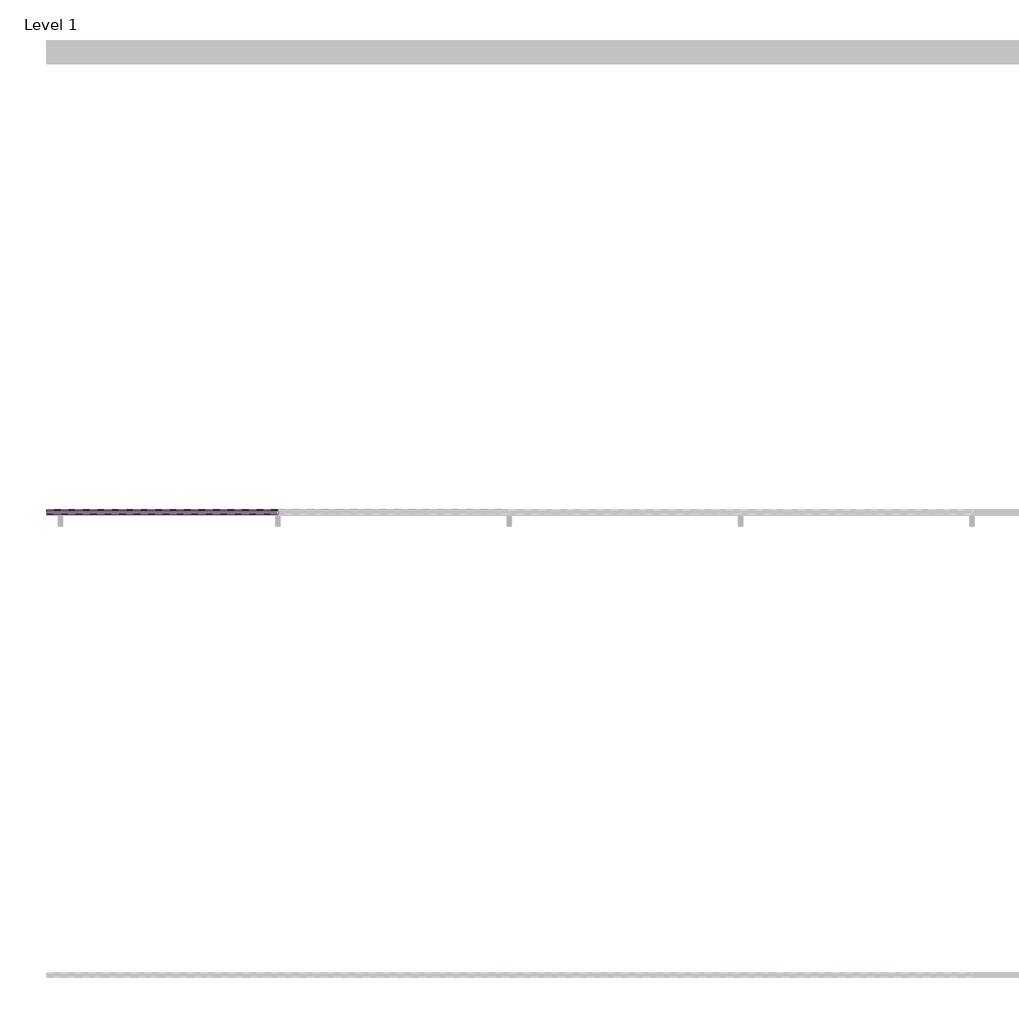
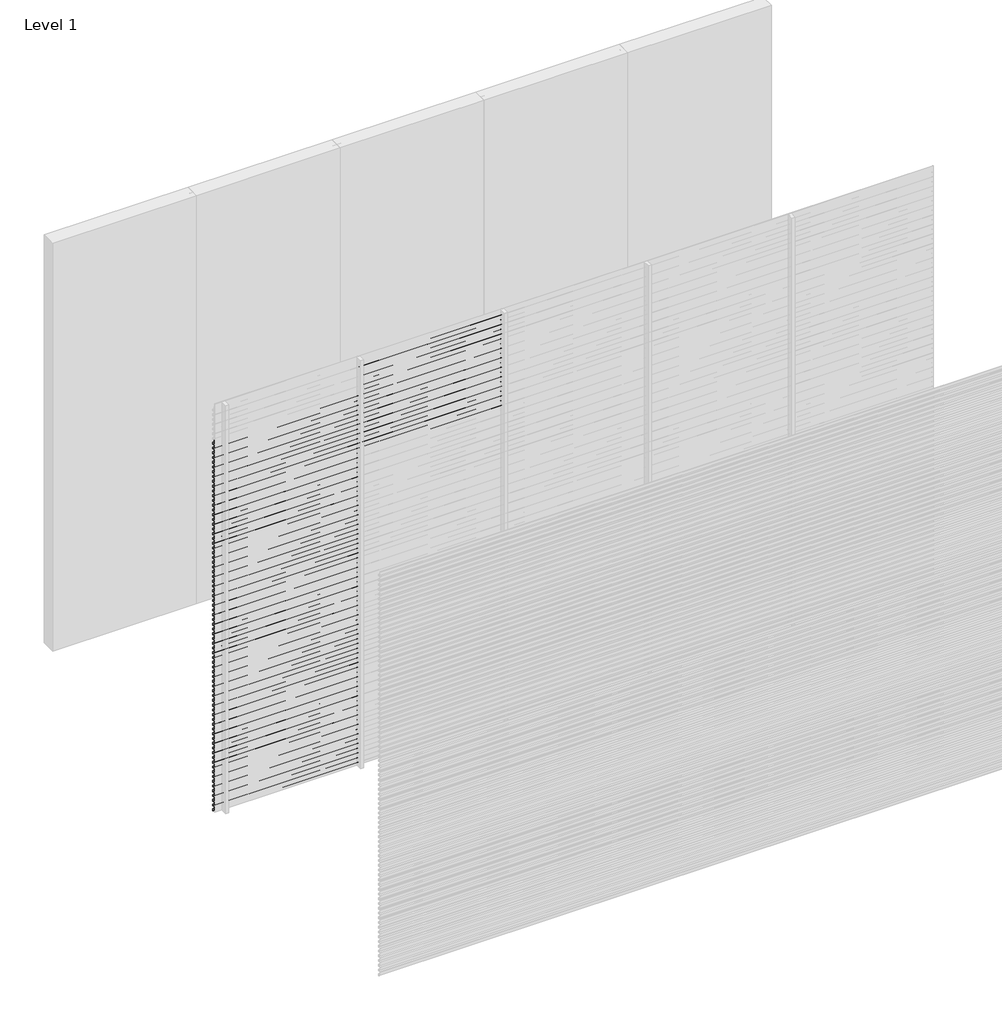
# One storey, part 15 of 25: 98 proxies.
"""IFC4 building model written with IfcOpenShell, lengths in millimetres."""

from ifc_helpers import new_model, si_unit, frame, origin, place, context, project, spatial, polyline, outline, extrude, element, save

model = new_model("IFC4")

# Units and contexts
model_context = context("Model", 3, world=origin())
ifc_project = project(units=[si_unit("LENGTHUNIT", "METRE", prefix="MILLI")], contexts=[model_context])

# Site, building, storey
site = spatial("IfcSite", under=ifc_project)
building = spatial("IfcBuilding", under=site)
storey = spatial("IfcBuildingStorey", under=building, Name="Level 1", Elevation=0.0)

# Proxies
placement = place(None, origin())
element("IfcBuildingElementProxy", 1, Name="Wall Sweeps", at=placement, inside=storey, context=model_context, shape_type="SweptSolid", body=[
    extrude(outline(polyline([(-5995.0, 2730.0), (-5995.0, 2718.942893), (-5976.0, 2703.0), (-5976.0, 2690.0), (-5997.0, 2707.6210923), (-5997.0, 2730.0), (-5995.0, 2730.0)])), frame((0.0, 0.0, 0.0), z_axis=(1.0, 0.0, 0.0), x_axis=(0.0, 1.0, 0.0)), (0.0, 0.0, 1.0), 1000.0),
])
element("IfcBuildingElementProxy", 2, Name="Wall Sweeps", at=placement, inside=storey, context=model_context, shape_type="SweptSolid", body=[
    extrude(outline(polyline([(-5995.0, 2695.0), (-5995.0, 2683.942893), (-5976.0, 2668.0), (-5976.0, 2655.0), (-5997.0, 2672.6210923), (-5997.0, 2695.0), (-5995.0, 2695.0)])), frame((0.0, 0.0, 0.0), z_axis=(1.0, 0.0, 0.0), x_axis=(0.0, 1.0, 0.0)), (0.0, 0.0, 1.0), 1000.0),
])
element("IfcBuildingElementProxy", 3, Name="Wall Sweeps", at=placement, inside=storey, context=model_context, shape_type="SweptSolid", body=[
    extrude(outline(polyline([(-5995.0, 2660.0), (-5995.0, 2648.942893), (-5976.0, 2633.0), (-5976.0, 2620.0), (-5997.0, 2637.6210923), (-5997.0, 2660.0), (-5995.0, 2660.0)])), frame((0.0, 0.0, 0.0), z_axis=(1.0, 0.0, 0.0), x_axis=(0.0, 1.0, 0.0)), (0.0, 0.0, 1.0), 1000.0),
])
element("IfcBuildingElementProxy", 4, Name="Wall Sweeps", at=placement, inside=storey, context=model_context, shape_type="SweptSolid", body=[
    extrude(outline(polyline([(-5995.0, 2625.0), (-5995.0, 2613.942893), (-5976.0, 2598.0), (-5976.0, 2585.0), (-5997.0, 2602.6210923), (-5997.0, 2625.0), (-5995.0, 2625.0)])), frame((0.0, 0.0, 0.0), z_axis=(1.0, 0.0, 0.0), x_axis=(0.0, 1.0, 0.0)), (0.0, 0.0, 1.0), 1000.0),
])
element("IfcBuildingElementProxy", 5, Name="Wall Sweeps", at=placement, inside=storey, context=model_context, shape_type="SweptSolid", body=[
    extrude(outline(polyline([(-5995.0, 2590.0), (-5995.0, 2578.942893), (-5976.0, 2563.0), (-5976.0, 2550.0), (-5997.0, 2567.6210923), (-5997.0, 2590.0), (-5995.0, 2590.0)])), frame((0.0, 0.0, 0.0), z_axis=(1.0, 0.0, 0.0), x_axis=(0.0, 1.0, 0.0)), (0.0, 0.0, 1.0), 1000.0),
])
element("IfcBuildingElementProxy", 6, Name="Wall Sweeps", at=placement, inside=storey, context=model_context, shape_type="SweptSolid", body=[
    extrude(outline(polyline([(-5995.0, 2555.0), (-5995.0, 2543.942893), (-5976.0, 2528.0), (-5976.0, 2515.0), (-5997.0, 2532.6210923), (-5997.0, 2555.0), (-5995.0, 2555.0)])), frame((0.0, 0.0, 0.0), z_axis=(1.0, 0.0, 0.0), x_axis=(0.0, 1.0, 0.0)), (0.0, 0.0, 1.0), 1000.0),
])
element("IfcBuildingElementProxy", 7, Name="Wall Sweeps", at=placement, inside=storey, context=model_context, shape_type="SweptSolid", body=[
    extrude(outline(polyline([(-5995.0, 2520.0), (-5995.0, 2508.942893), (-5976.0, 2493.0), (-5976.0, 2480.0), (-5997.0, 2497.6210923), (-5997.0, 2520.0), (-5995.0, 2520.0)])), frame((0.0, 0.0, 0.0), z_axis=(1.0, 0.0, 0.0), x_axis=(0.0, 1.0, 0.0)), (0.0, 0.0, 1.0), 1000.0),
])
element("IfcBuildingElementProxy", 8, Name="Wall Sweeps", at=placement, inside=storey, context=model_context, shape_type="SweptSolid", body=[
    extrude(outline(polyline([(-5995.0, 2485.0), (-5995.0, 2473.942893), (-5976.0, 2458.0), (-5976.0, 2445.0), (-5997.0, 2462.6210923), (-5997.0, 2485.0), (-5995.0, 2485.0)])), frame((0.0, 0.0, 0.0), z_axis=(1.0, 0.0, 0.0), x_axis=(0.0, 1.0, 0.0)), (0.0, 0.0, 1.0), 1000.0),
])
element("IfcBuildingElementProxy", 9, Name="Wall Sweeps", at=placement, inside=storey, context=model_context, shape_type="SweptSolid", body=[
    extrude(outline(polyline([(-5995.0, 2450.0), (-5995.0, 2438.942893), (-5976.0, 2423.0), (-5976.0, 2410.0), (-5997.0, 2427.6210923), (-5997.0, 2450.0), (-5995.0, 2450.0)])), frame((0.0, 0.0, 0.0), z_axis=(1.0, 0.0, 0.0), x_axis=(0.0, 1.0, 0.0)), (0.0, 0.0, 1.0), 1000.0),
])
element("IfcBuildingElementProxy", 10, Name="Wall Sweeps", at=placement, inside=storey, context=model_context, shape_type="SweptSolid", body=[
    extrude(outline(polyline([(-5995.0, 2415.0), (-5995.0, 2403.942893), (-5976.0, 2388.0), (-5976.0, 2375.0), (-5997.0, 2392.6210923), (-5997.0, 2415.0), (-5995.0, 2415.0)])), frame((0.0, 0.0, 0.0), z_axis=(1.0, 0.0, 0.0), x_axis=(0.0, 1.0, 0.0)), (0.0, 0.0, 1.0), 1000.0),
])
element("IfcBuildingElementProxy", 11, Name="Wall Sweeps", at=placement, inside=storey, context=model_context, shape_type="SweptSolid", body=[
    extrude(outline(polyline([(-5995.0, 2380.0), (-5995.0, 2368.942893), (-5976.0, 2353.0), (-5976.0, 2340.0), (-5997.0, 2357.6210923), (-5997.0, 2380.0), (-5995.0, 2380.0)])), frame((0.0, 0.0, 0.0), z_axis=(1.0, 0.0, 0.0), x_axis=(0.0, 1.0, 0.0)), (0.0, 0.0, 1.0), 1000.0),
])
element("IfcBuildingElementProxy", 12, Name="Wall Sweeps", at=placement, inside=storey, context=model_context, shape_type="SweptSolid", body=[
    extrude(outline(polyline([(-5995.0, 2345.0), (-5995.0, 2333.942893), (-5976.0, 2318.0), (-5976.0, 2305.0), (-5997.0, 2322.6210923), (-5997.0, 2345.0), (-5995.0, 2345.0)])), frame((0.0, 0.0, 0.0), z_axis=(1.0, 0.0, 0.0), x_axis=(0.0, 1.0, 0.0)), (0.0, 0.0, 1.0), 1000.0),
])
element("IfcBuildingElementProxy", 13, Name="Wall Sweeps", at=placement, inside=storey, context=model_context, shape_type="SweptSolid", body=[
    extrude(outline(polyline([(-5995.0, 2310.0), (-5995.0, 2298.942893), (-5976.0, 2283.0), (-5976.0, 2270.0), (-5997.0, 2287.6210923), (-5997.0, 2310.0), (-5995.0, 2310.0)])), frame((0.0, 0.0, 0.0), z_axis=(1.0, 0.0, 0.0), x_axis=(0.0, 1.0, 0.0)), (0.0, 0.0, 1.0), 1000.0),
])
element("IfcBuildingElementProxy", 14, Name="Wall Sweeps", at=placement, inside=storey, context=model_context, shape_type="SweptSolid", body=[
    extrude(outline(polyline([(-5995.0, 2275.0), (-5995.0, 2263.942893), (-5976.0, 2248.0), (-5976.0, 2235.0), (-5997.0, 2252.6210923), (-5997.0, 2275.0), (-5995.0, 2275.0)])), frame((0.0, 0.0, 0.0), z_axis=(1.0, 0.0, 0.0), x_axis=(0.0, 1.0, 0.0)), (0.0, 0.0, 1.0), 1000.0),
])
element("IfcBuildingElementProxy", 15, Name="Wall Sweeps", at=placement, inside=storey, context=model_context, shape_type="SweptSolid", body=[
    extrude(outline(polyline([(-5995.0, 2240.0), (-5995.0, 2228.942893), (-5976.0, 2213.0), (-5976.0, 2200.0), (-5997.0, 2217.6210923), (-5997.0, 2240.0), (-5995.0, 2240.0)])), frame((0.0, 0.0, 0.0), z_axis=(1.0, 0.0, 0.0), x_axis=(0.0, 1.0, 0.0)), (0.0, 0.0, 1.0), 1000.0),
])
element("IfcBuildingElementProxy", 16, Name="Wall Sweeps", at=placement, inside=storey, context=model_context, shape_type="SweptSolid", body=[
    extrude(outline(polyline([(-5995.0, 2205.0), (-5995.0, 2193.942893), (-5976.0, 2178.0), (-5976.0, 2165.0), (-5997.0, 2182.6210923), (-5997.0, 2205.0), (-5995.0, 2205.0)])), frame((0.0, 0.0, 0.0), z_axis=(1.0, 0.0, 0.0), x_axis=(0.0, 1.0, 0.0)), (0.0, 0.0, 1.0), 1000.0),
])
element("IfcBuildingElementProxy", 17, Name="Wall Sweeps", at=placement, inside=storey, context=model_context, shape_type="SweptSolid", body=[
    extrude(outline(polyline([(-5995.0, 2170.0), (-5995.0, 2158.942893), (-5976.0, 2143.0), (-5976.0, 2130.0), (-5997.0, 2147.6210923), (-5997.0, 2170.0), (-5995.0, 2170.0)])), frame((0.0, 0.0, 0.0), z_axis=(1.0, 0.0, 0.0), x_axis=(0.0, 1.0, 0.0)), (0.0, 0.0, 1.0), 1000.0),
])
element("IfcBuildingElementProxy", 18, Name="Wall Sweeps", at=placement, inside=storey, context=model_context, shape_type="SweptSolid", body=[
    extrude(outline(polyline([(-5995.0, 2135.0), (-5995.0, 2123.942893), (-5976.0, 2108.0), (-5976.0, 2095.0), (-5997.0, 2112.6210923), (-5997.0, 2135.0), (-5995.0, 2135.0)])), frame((0.0, 0.0, 0.0), z_axis=(1.0, 0.0, 0.0), x_axis=(0.0, 1.0, 0.0)), (0.0, 0.0, 1.0), 1000.0),
])
element("IfcBuildingElementProxy", 19, Name="Wall Sweeps", at=placement, inside=storey, context=model_context, shape_type="SweptSolid", body=[
    extrude(outline(polyline([(-5995.0, 2100.0), (-5995.0, 2088.942893), (-5976.0, 2073.0), (-5976.0, 2060.0), (-5997.0, 2077.6210923), (-5997.0, 2100.0), (-5995.0, 2100.0)])), frame((0.0, 0.0, 0.0), z_axis=(1.0, 0.0, 0.0), x_axis=(0.0, 1.0, 0.0)), (0.0, 0.0, 1.0), 1000.0),
])
element("IfcBuildingElementProxy", 20, Name="Wall Sweeps", at=placement, inside=storey, context=model_context, shape_type="SweptSolid", body=[
    extrude(outline(polyline([(-5995.0, 2065.0), (-5995.0, 2053.942893), (-5976.0, 2038.0), (-5976.0, 2025.0), (-5997.0, 2042.6210923), (-5997.0, 2065.0), (-5995.0, 2065.0)])), frame((0.0, 0.0, 0.0), z_axis=(1.0, 0.0, 0.0), x_axis=(0.0, 1.0, 0.0)), (0.0, 0.0, 1.0), 1000.0),
])
element("IfcBuildingElementProxy", 21, Name="Wall Sweeps", at=placement, inside=storey, context=model_context, shape_type="SweptSolid", body=[
    extrude(outline(polyline([(-5995.0, 2030.0), (-5995.0, 2018.942893), (-5976.0, 2003.0), (-5976.0, 1990.0), (-5997.0, 2007.6210923), (-5997.0, 2030.0), (-5995.0, 2030.0)])), frame((0.0, 0.0, 0.0), z_axis=(1.0, 0.0, 0.0), x_axis=(0.0, 1.0, 0.0)), (0.0, 0.0, 1.0), 1000.0),
])
element("IfcBuildingElementProxy", 22, Name="Wall Sweeps", at=placement, inside=storey, context=model_context, shape_type="SweptSolid", body=[
    extrude(outline(polyline([(-5995.0, 1995.0), (-5995.0, 1983.942893), (-5976.0, 1968.0), (-5976.0, 1955.0), (-5997.0, 1972.6210923), (-5997.0, 1995.0), (-5995.0, 1995.0)])), frame((0.0, 0.0, 0.0), z_axis=(1.0, 0.0, 0.0), x_axis=(0.0, 1.0, 0.0)), (0.0, 0.0, 1.0), 1000.0),
])
element("IfcBuildingElementProxy", 23, Name="Wall Sweeps", at=placement, inside=storey, context=model_context, shape_type="SweptSolid", body=[
    extrude(outline(polyline([(-5995.0, 1960.0), (-5995.0, 1948.942893), (-5976.0, 1933.0), (-5976.0, 1920.0), (-5997.0, 1937.6210923), (-5997.0, 1960.0), (-5995.0, 1960.0)])), frame((0.0, 0.0, 0.0), z_axis=(1.0, 0.0, 0.0), x_axis=(0.0, 1.0, 0.0)), (0.0, 0.0, 1.0), 1000.0),
])
element("IfcBuildingElementProxy", 24, Name="Wall Sweeps", at=placement, inside=storey, context=model_context, shape_type="SweptSolid", body=[
    extrude(outline(polyline([(-5995.0, 1925.0), (-5995.0, 1913.942893), (-5976.0, 1898.0), (-5976.0, 1885.0), (-5997.0, 1902.6210923), (-5997.0, 1925.0), (-5995.0, 1925.0)])), frame((0.0, 0.0, 0.0), z_axis=(1.0, 0.0, 0.0), x_axis=(0.0, 1.0, 0.0)), (0.0, 0.0, 1.0), 1000.0),
])
element("IfcBuildingElementProxy", 25, Name="Wall Sweeps", at=placement, inside=storey, context=model_context, shape_type="SweptSolid", body=[
    extrude(outline(polyline([(-5995.0, 1890.0), (-5995.0, 1878.942893), (-5976.0, 1863.0), (-5976.0, 1850.0), (-5997.0, 1867.6210923), (-5997.0, 1890.0), (-5995.0, 1890.0)])), frame((0.0, 0.0, 0.0), z_axis=(1.0, 0.0, 0.0), x_axis=(0.0, 1.0, 0.0)), (0.0, 0.0, 1.0), 1000.0),
])
element("IfcBuildingElementProxy", 26, Name="Wall Sweeps", at=placement, inside=storey, context=model_context, shape_type="SweptSolid", body=[
    extrude(outline(polyline([(-5995.0, 1855.0), (-5995.0, 1843.942893), (-5976.0, 1828.0), (-5976.0, 1815.0), (-5997.0, 1832.6210923), (-5997.0, 1855.0), (-5995.0, 1855.0)])), frame((0.0, 0.0, 0.0), z_axis=(1.0, 0.0, 0.0), x_axis=(0.0, 1.0, 0.0)), (0.0, 0.0, 1.0), 1000.0),
])
element("IfcBuildingElementProxy", 27, Name="Wall Sweeps", at=placement, inside=storey, context=model_context, shape_type="SweptSolid", body=[
    extrude(outline(polyline([(-5995.0, 1820.0), (-5995.0, 1808.942893), (-5976.0, 1793.0), (-5976.0, 1780.0), (-5997.0, 1797.6210923), (-5997.0, 1820.0), (-5995.0, 1820.0)])), frame((0.0, 0.0, 0.0), z_axis=(1.0, 0.0, 0.0), x_axis=(0.0, 1.0, 0.0)), (0.0, 0.0, 1.0), 1000.0),
])
element("IfcBuildingElementProxy", 28, Name="Wall Sweeps", at=placement, inside=storey, context=model_context, shape_type="SweptSolid", body=[
    extrude(outline(polyline([(-5995.0, 1785.0), (-5995.0, 1773.942893), (-5976.0, 1758.0), (-5976.0, 1745.0), (-5997.0, 1762.6210923), (-5997.0, 1785.0), (-5995.0, 1785.0)])), frame((0.0, 0.0, 0.0), z_axis=(1.0, 0.0, 0.0), x_axis=(0.0, 1.0, 0.0)), (0.0, 0.0, 1.0), 1000.0),
])
element("IfcBuildingElementProxy", 29, Name="Wall Sweeps", at=placement, inside=storey, context=model_context, shape_type="SweptSolid", body=[
    extrude(outline(polyline([(-5995.0, 1750.0), (-5995.0, 1738.942893), (-5976.0, 1723.0), (-5976.0, 1710.0), (-5997.0, 1727.6210923), (-5997.0, 1750.0), (-5995.0, 1750.0)])), frame((0.0, 0.0, 0.0), z_axis=(1.0, 0.0, 0.0), x_axis=(0.0, 1.0, 0.0)), (0.0, 0.0, 1.0), 1000.0),
])
element("IfcBuildingElementProxy", 30, Name="Wall Sweeps", at=placement, inside=storey, context=model_context, shape_type="SweptSolid", body=[
    extrude(outline(polyline([(-5995.0, 1715.0), (-5995.0, 1703.942893), (-5976.0, 1688.0), (-5976.0, 1675.0), (-5997.0, 1692.6210923), (-5997.0, 1715.0), (-5995.0, 1715.0)])), frame((0.0, 0.0, 0.0), z_axis=(1.0, 0.0, 0.0), x_axis=(0.0, 1.0, 0.0)), (0.0, 0.0, 1.0), 1000.0),
])
element("IfcBuildingElementProxy", 31, Name="Wall Sweeps", at=placement, inside=storey, context=model_context, shape_type="SweptSolid", body=[
    extrude(outline(polyline([(-5995.0, 1680.0), (-5995.0, 1668.942893), (-5976.0, 1653.0), (-5976.0, 1640.0), (-5997.0, 1657.6210923), (-5997.0, 1680.0), (-5995.0, 1680.0)])), frame((0.0, 0.0, 0.0), z_axis=(1.0, 0.0, 0.0), x_axis=(0.0, 1.0, 0.0)), (0.0, 0.0, 1.0), 1000.0),
])
element("IfcBuildingElementProxy", 32, Name="Wall Sweeps", at=placement, inside=storey, context=model_context, shape_type="SweptSolid", body=[
    extrude(outline(polyline([(-5995.0, 1645.0), (-5995.0, 1633.942893), (-5976.0, 1618.0), (-5976.0, 1605.0), (-5997.0, 1622.6210923), (-5997.0, 1645.0), (-5995.0, 1645.0)])), frame((0.0, 0.0, 0.0), z_axis=(1.0, 0.0, 0.0), x_axis=(0.0, 1.0, 0.0)), (0.0, 0.0, 1.0), 1000.0),
])
element("IfcBuildingElementProxy", 33, Name="Wall Sweeps", at=placement, inside=storey, context=model_context, shape_type="SweptSolid", body=[
    extrude(outline(polyline([(-5995.0, 1610.0), (-5995.0, 1598.942893), (-5976.0, 1583.0), (-5976.0, 1570.0), (-5997.0, 1587.6210923), (-5997.0, 1610.0), (-5995.0, 1610.0)])), frame((0.0, 0.0, 0.0), z_axis=(1.0, 0.0, 0.0), x_axis=(0.0, 1.0, 0.0)), (0.0, 0.0, 1.0), 1000.0),
])
element("IfcBuildingElementProxy", 34, Name="Wall Sweeps", at=placement, inside=storey, context=model_context, shape_type="SweptSolid", body=[
    extrude(outline(polyline([(-5995.0, 1575.0), (-5995.0, 1563.942893), (-5976.0, 1548.0), (-5976.0, 1535.0), (-5997.0, 1552.6210923), (-5997.0, 1575.0), (-5995.0, 1575.0)])), frame((0.0, 0.0, 0.0), z_axis=(1.0, 0.0, 0.0), x_axis=(0.0, 1.0, 0.0)), (0.0, 0.0, 1.0), 1000.0),
])
element("IfcBuildingElementProxy", 35, Name="Wall Sweeps", at=placement, inside=storey, context=model_context, shape_type="SweptSolid", body=[
    extrude(outline(polyline([(-5995.0, 1540.0), (-5995.0, 1528.942893), (-5976.0, 1513.0), (-5976.0, 1500.0), (-5997.0, 1517.6210923), (-5997.0, 1540.0), (-5995.0, 1540.0)])), frame((0.0, 0.0, 0.0), z_axis=(1.0, 0.0, 0.0), x_axis=(0.0, 1.0, 0.0)), (0.0, 0.0, 1.0), 1000.0),
])
element("IfcBuildingElementProxy", 36, Name="Wall Sweeps", at=placement, inside=storey, context=model_context, shape_type="SweptSolid", body=[
    extrude(outline(polyline([(-5995.0, 1505.0), (-5995.0, 1493.942893), (-5976.0, 1478.0), (-5976.0, 1465.0), (-5997.0, 1482.6210923), (-5997.0, 1505.0), (-5995.0, 1505.0)])), frame((0.0, 0.0, 0.0), z_axis=(1.0, 0.0, 0.0), x_axis=(0.0, 1.0, 0.0)), (0.0, 0.0, 1.0), 1000.0),
])
element("IfcBuildingElementProxy", 37, Name="Wall Sweeps", at=placement, inside=storey, context=model_context, shape_type="SweptSolid", body=[
    extrude(outline(polyline([(-5995.0, 1470.0), (-5995.0, 1458.942893), (-5976.0, 1443.0), (-5976.0, 1430.0), (-5997.0, 1447.6210923), (-5997.0, 1470.0), (-5995.0, 1470.0)])), frame((0.0, 0.0, 0.0), z_axis=(1.0, 0.0, 0.0), x_axis=(0.0, 1.0, 0.0)), (0.0, 0.0, 1.0), 1000.0),
])
element("IfcBuildingElementProxy", 38, Name="Wall Sweeps", at=placement, inside=storey, context=model_context, shape_type="SweptSolid", body=[
    extrude(outline(polyline([(-5995.0, 1435.0), (-5995.0, 1423.942893), (-5976.0, 1408.0), (-5976.0, 1395.0), (-5997.0, 1412.6210923), (-5997.0, 1435.0), (-5995.0, 1435.0)])), frame((0.0, 0.0, 0.0), z_axis=(1.0, 0.0, 0.0), x_axis=(0.0, 1.0, 0.0)), (0.0, 0.0, 1.0), 1000.0),
])
element("IfcBuildingElementProxy", 39, Name="Wall Sweeps", at=placement, inside=storey, context=model_context, shape_type="SweptSolid", body=[
    extrude(outline(polyline([(-5995.0, 1400.0), (-5995.0, 1388.942893), (-5976.0, 1373.0), (-5976.0, 1360.0), (-5997.0, 1377.6210923), (-5997.0, 1400.0), (-5995.0, 1400.0)])), frame((0.0, 0.0, 0.0), z_axis=(1.0, 0.0, 0.0), x_axis=(0.0, 1.0, 0.0)), (0.0, 0.0, 1.0), 1000.0),
])
element("IfcBuildingElementProxy", 40, Name="Wall Sweeps", at=placement, inside=storey, context=model_context, shape_type="SweptSolid", body=[
    extrude(outline(polyline([(-5995.0, 1365.0), (-5995.0, 1353.942893), (-5976.0, 1338.0), (-5976.0, 1325.0), (-5997.0, 1342.6210923), (-5997.0, 1365.0), (-5995.0, 1365.0)])), frame((0.0, 0.0, 0.0), z_axis=(1.0, 0.0, 0.0), x_axis=(0.0, 1.0, 0.0)), (0.0, 0.0, 1.0), 1000.0),
])
element("IfcBuildingElementProxy", 41, Name="Wall Sweeps", at=placement, inside=storey, context=model_context, shape_type="SweptSolid", body=[
    extrude(outline(polyline([(-5995.0, 1330.0), (-5995.0, 1318.942893), (-5976.0, 1303.0), (-5976.0, 1290.0), (-5997.0, 1307.6210923), (-5997.0, 1330.0), (-5995.0, 1330.0)])), frame((0.0, 0.0, 0.0), z_axis=(1.0, 0.0, 0.0), x_axis=(0.0, 1.0, 0.0)), (0.0, 0.0, 1.0), 1000.0),
])
element("IfcBuildingElementProxy", 42, Name="Wall Sweeps", at=placement, inside=storey, context=model_context, shape_type="SweptSolid", body=[
    extrude(outline(polyline([(-5995.0, 1295.0), (-5995.0, 1283.942893), (-5976.0, 1268.0), (-5976.0, 1255.0), (-5997.0, 1272.6210923), (-5997.0, 1295.0), (-5995.0, 1295.0)])), frame((0.0, 0.0, 0.0), z_axis=(1.0, 0.0, 0.0), x_axis=(0.0, 1.0, 0.0)), (0.0, 0.0, 1.0), 1000.0),
])
element("IfcBuildingElementProxy", 43, Name="Wall Sweeps", at=placement, inside=storey, context=model_context, shape_type="SweptSolid", body=[
    extrude(outline(polyline([(-5995.0, 1260.0), (-5995.0, 1248.942893), (-5976.0, 1233.0), (-5976.0, 1220.0), (-5997.0, 1237.6210923), (-5997.0, 1260.0), (-5995.0, 1260.0)])), frame((0.0, 0.0, 0.0), z_axis=(1.0, 0.0, 0.0), x_axis=(0.0, 1.0, 0.0)), (0.0, 0.0, 1.0), 1000.0),
])
element("IfcBuildingElementProxy", 44, Name="Wall Sweeps", at=placement, inside=storey, context=model_context, shape_type="SweptSolid", body=[
    extrude(outline(polyline([(-5995.0, 1225.0), (-5995.0, 1213.942893), (-5976.0, 1198.0), (-5976.0, 1185.0), (-5997.0, 1202.6210923), (-5997.0, 1225.0), (-5995.0, 1225.0)])), frame((0.0, 0.0, 0.0), z_axis=(1.0, 0.0, 0.0), x_axis=(0.0, 1.0, 0.0)), (0.0, 0.0, 1.0), 1000.0),
])
element("IfcBuildingElementProxy", 45, Name="Wall Sweeps", at=placement, inside=storey, context=model_context, shape_type="SweptSolid", body=[
    extrude(outline(polyline([(-5995.0, 1190.0), (-5995.0, 1178.942893), (-5976.0, 1163.0), (-5976.0, 1150.0), (-5997.0, 1167.6210923), (-5997.0, 1190.0), (-5995.0, 1190.0)])), frame((0.0, 0.0, 0.0), z_axis=(1.0, 0.0, 0.0), x_axis=(0.0, 1.0, 0.0)), (0.0, 0.0, 1.0), 1000.0),
])
element("IfcBuildingElementProxy", 46, Name="Wall Sweeps", at=placement, inside=storey, context=model_context, shape_type="SweptSolid", body=[
    extrude(outline(polyline([(-5995.0, 1155.0), (-5995.0, 1143.942893), (-5976.0, 1128.0), (-5976.0, 1115.0), (-5997.0, 1132.6210923), (-5997.0, 1155.0), (-5995.0, 1155.0)])), frame((0.0, 0.0, 0.0), z_axis=(1.0, 0.0, 0.0), x_axis=(0.0, 1.0, 0.0)), (0.0, 0.0, 1.0), 1000.0),
])
element("IfcBuildingElementProxy", 47, Name="Wall Sweeps", at=placement, inside=storey, context=model_context, shape_type="SweptSolid", body=[
    extrude(outline(polyline([(-5995.0, 1120.0), (-5995.0, 1108.942893), (-5976.0, 1093.0), (-5976.0, 1080.0), (-5997.0, 1097.6210923), (-5997.0, 1120.0), (-5995.0, 1120.0)])), frame((0.0, 0.0, 0.0), z_axis=(1.0, 0.0, 0.0), x_axis=(0.0, 1.0, 0.0)), (0.0, 0.0, 1.0), 1000.0),
])
element("IfcBuildingElementProxy", 48, Name="Wall Sweeps", at=placement, inside=storey, context=model_context, shape_type="SweptSolid", body=[
    extrude(outline(polyline([(-5995.0, 1085.0), (-5995.0, 1073.942893), (-5976.0, 1058.0), (-5976.0, 1045.0), (-5997.0, 1062.6210923), (-5997.0, 1085.0), (-5995.0, 1085.0)])), frame((0.0, 0.0, 0.0), z_axis=(1.0, 0.0, 0.0), x_axis=(0.0, 1.0, 0.0)), (0.0, 0.0, 1.0), 1000.0),
])
element("IfcBuildingElementProxy", 49, Name="Wall Sweeps", at=placement, inside=storey, context=model_context, shape_type="SweptSolid", body=[
    extrude(outline(polyline([(-5995.0, 1050.0), (-5995.0, 1038.942893), (-5976.0, 1023.0), (-5976.0, 1010.0), (-5997.0, 1027.6210923), (-5997.0, 1050.0), (-5995.0, 1050.0)])), frame((0.0, 0.0, 0.0), z_axis=(1.0, 0.0, 0.0), x_axis=(0.0, 1.0, 0.0)), (0.0, 0.0, 1.0), 1000.0),
])
element("IfcBuildingElementProxy", 50, Name="Wall Sweeps", at=placement, inside=storey, context=model_context, shape_type="SweptSolid", body=[
    extrude(outline(polyline([(-5995.0, 1015.0), (-5995.0, 1003.942893), (-5976.0, 988.0), (-5976.0, 975.0), (-5997.0, 992.6210923), (-5997.0, 1015.0), (-5995.0, 1015.0)])), frame((0.0, 0.0, 0.0), z_axis=(1.0, 0.0, 0.0), x_axis=(0.0, 1.0, 0.0)), (0.0, 0.0, 1.0), 1000.0),
])
element("IfcBuildingElementProxy", 51, Name="Wall Sweeps", at=placement, inside=storey, context=model_context, shape_type="SweptSolid", body=[
    extrude(outline(polyline([(-5995.0, 980.0), (-5995.0, 968.942893), (-5976.0, 953.0), (-5976.0, 940.0), (-5997.0, 957.6210923), (-5997.0, 980.0), (-5995.0, 980.0)])), frame((0.0, 0.0, 0.0), z_axis=(1.0, 0.0, 0.0), x_axis=(0.0, 1.0, 0.0)), (0.0, 0.0, 1.0), 1000.0),
])
element("IfcBuildingElementProxy", 52, Name="Wall Sweeps", at=placement, inside=storey, context=model_context, shape_type="SweptSolid", body=[
    extrude(outline(polyline([(-5995.0, 945.0), (-5995.0, 933.942893), (-5976.0, 918.0), (-5976.0, 905.0), (-5997.0, 922.6210923), (-5997.0, 945.0), (-5995.0, 945.0)])), frame((0.0, 0.0, 0.0), z_axis=(1.0, 0.0, 0.0), x_axis=(0.0, 1.0, 0.0)), (0.0, 0.0, 1.0), 1000.0),
])
element("IfcBuildingElementProxy", 53, Name="Wall Sweeps", at=placement, inside=storey, context=model_context, shape_type="SweptSolid", body=[
    extrude(outline(polyline([(-5995.0, 910.0), (-5995.0, 898.942893), (-5976.0, 883.0), (-5976.0, 870.0), (-5997.0, 887.6210923), (-5997.0, 910.0), (-5995.0, 910.0)])), frame((0.0, 0.0, 0.0), z_axis=(1.0, 0.0, 0.0), x_axis=(0.0, 1.0, 0.0)), (0.0, 0.0, 1.0), 1000.0),
])
element("IfcBuildingElementProxy", 54, Name="Wall Sweeps", at=placement, inside=storey, context=model_context, shape_type="SweptSolid", body=[
    extrude(outline(polyline([(-5995.0, 875.0), (-5995.0, 863.942893), (-5976.0, 848.0), (-5976.0, 835.0), (-5997.0, 852.6210923), (-5997.0, 875.0), (-5995.0, 875.0)])), frame((0.0, 0.0, 0.0), z_axis=(1.0, 0.0, 0.0), x_axis=(0.0, 1.0, 0.0)), (0.0, 0.0, 1.0), 1000.0),
])
element("IfcBuildingElementProxy", 55, Name="Wall Sweeps", at=placement, inside=storey, context=model_context, shape_type="SweptSolid", body=[
    extrude(outline(polyline([(-5995.0, 840.0), (-5995.0, 828.942893), (-5976.0, 813.0), (-5976.0, 800.0), (-5997.0, 817.6210923), (-5997.0, 840.0), (-5995.0, 840.0)])), frame((0.0, 0.0, 0.0), z_axis=(1.0, 0.0, 0.0), x_axis=(0.0, 1.0, 0.0)), (0.0, 0.0, 1.0), 1000.0),
])
element("IfcBuildingElementProxy", 56, Name="Wall Sweeps", at=placement, inside=storey, context=model_context, shape_type="SweptSolid", body=[
    extrude(outline(polyline([(-5995.0, 805.0), (-5995.0, 793.942893), (-5976.0, 778.0), (-5976.0, 765.0), (-5997.0, 782.6210923), (-5997.0, 805.0), (-5995.0, 805.0)])), frame((0.0, 0.0, 0.0), z_axis=(1.0, 0.0, 0.0), x_axis=(0.0, 1.0, 0.0)), (0.0, 0.0, 1.0), 1000.0),
])
element("IfcBuildingElementProxy", 57, Name="Wall Sweeps", at=placement, inside=storey, context=model_context, shape_type="SweptSolid", body=[
    extrude(outline(polyline([(-5995.0, 770.0), (-5995.0, 758.942893), (-5976.0, 743.0), (-5976.0, 730.0), (-5997.0, 747.6210923), (-5997.0, 770.0), (-5995.0, 770.0)])), frame((0.0, 0.0, 0.0), z_axis=(1.0, 0.0, 0.0), x_axis=(0.0, 1.0, 0.0)), (0.0, 0.0, 1.0), 1000.0),
])
element("IfcBuildingElementProxy", 58, Name="Wall Sweeps", at=placement, inside=storey, context=model_context, shape_type="SweptSolid", body=[
    extrude(outline(polyline([(-5995.0, 735.0), (-5995.0, 723.942893), (-5976.0, 708.0), (-5976.0, 695.0), (-5997.0, 712.6210923), (-5997.0, 735.0), (-5995.0, 735.0)])), frame((0.0, 0.0, 0.0), z_axis=(1.0, 0.0, 0.0), x_axis=(0.0, 1.0, 0.0)), (0.0, 0.0, 1.0), 1000.0),
])
element("IfcBuildingElementProxy", 59, Name="Wall Sweeps", at=placement, inside=storey, context=model_context, shape_type="SweptSolid", body=[
    extrude(outline(polyline([(-5995.0, 700.0), (-5995.0, 688.942893), (-5976.0, 673.0), (-5976.0, 660.0), (-5997.0, 677.6210923), (-5997.0, 700.0), (-5995.0, 700.0)])), frame((0.0, 0.0, 0.0), z_axis=(1.0, 0.0, 0.0), x_axis=(0.0, 1.0, 0.0)), (0.0, 0.0, 1.0), 1000.0),
])
element("IfcBuildingElementProxy", 60, Name="Wall Sweeps", at=placement, inside=storey, context=model_context, shape_type="SweptSolid", body=[
    extrude(outline(polyline([(-5995.0, 665.0), (-5995.0, 653.942893), (-5976.0, 638.0), (-5976.0, 625.0), (-5997.0, 642.6210923), (-5997.0, 665.0), (-5995.0, 665.0)])), frame((0.0, 0.0, 0.0), z_axis=(1.0, 0.0, 0.0), x_axis=(0.0, 1.0, 0.0)), (0.0, 0.0, 1.0), 1000.0),
])
element("IfcBuildingElementProxy", 61, Name="Wall Sweeps", at=placement, inside=storey, context=model_context, shape_type="SweptSolid", body=[
    extrude(outline(polyline([(-5995.0, 630.0), (-5995.0, 618.942893), (-5976.0, 603.0), (-5976.0, 590.0), (-5997.0, 607.6210923), (-5997.0, 630.0), (-5995.0, 630.0)])), frame((0.0, 0.0, 0.0), z_axis=(1.0, 0.0, 0.0), x_axis=(0.0, 1.0, 0.0)), (0.0, 0.0, 1.0), 1000.0),
])
element("IfcBuildingElementProxy", 62, Name="Wall Sweeps", at=placement, inside=storey, context=model_context, shape_type="SweptSolid", body=[
    extrude(outline(polyline([(-5995.0, 595.0), (-5995.0, 583.942893), (-5976.0, 568.0), (-5976.0, 555.0), (-5997.0, 572.6210923), (-5997.0, 595.0), (-5995.0, 595.0)])), frame((0.0, 0.0, 0.0), z_axis=(1.0, 0.0, 0.0), x_axis=(0.0, 1.0, 0.0)), (0.0, 0.0, 1.0), 1000.0),
])
element("IfcBuildingElementProxy", 63, Name="Wall Sweeps", at=placement, inside=storey, context=model_context, shape_type="SweptSolid", body=[
    extrude(outline(polyline([(-5995.0, 560.0), (-5995.0, 548.942893), (-5976.0, 533.0), (-5976.0, 520.0), (-5997.0, 537.6210923), (-5997.0, 560.0), (-5995.0, 560.0)])), frame((0.0, 0.0, 0.0), z_axis=(1.0, 0.0, 0.0), x_axis=(0.0, 1.0, 0.0)), (0.0, 0.0, 1.0), 1000.0),
])
element("IfcBuildingElementProxy", 64, Name="Wall Sweeps", at=placement, inside=storey, context=model_context, shape_type="SweptSolid", body=[
    extrude(outline(polyline([(-5995.0, 525.0), (-5995.0, 513.942893), (-5976.0, 498.0), (-5976.0, 485.0), (-5997.0, 502.6210923), (-5997.0, 525.0), (-5995.0, 525.0)])), frame((0.0, 0.0, 0.0), z_axis=(1.0, 0.0, 0.0), x_axis=(0.0, 1.0, 0.0)), (0.0, 0.0, 1.0), 1000.0),
])
element("IfcBuildingElementProxy", 65, Name="Wall Sweeps", at=placement, inside=storey, context=model_context, shape_type="SweptSolid", body=[
    extrude(outline(polyline([(-5995.0, 490.0), (-5995.0, 478.942893), (-5976.0, 463.0), (-5976.0, 450.0), (-5997.0, 467.6210923), (-5997.0, 490.0), (-5995.0, 490.0)])), frame((0.0, 0.0, 0.0), z_axis=(1.0, 0.0, 0.0), x_axis=(0.0, 1.0, 0.0)), (0.0, 0.0, 1.0), 1000.0),
])
element("IfcBuildingElementProxy", 66, Name="Wall Sweeps", at=placement, inside=storey, context=model_context, shape_type="SweptSolid", body=[
    extrude(outline(polyline([(-5995.0, 455.0), (-5995.0, 443.942893), (-5976.0, 428.0), (-5976.0, 415.0), (-5997.0, 432.6210923), (-5997.0, 455.0), (-5995.0, 455.0)])), frame((0.0, 0.0, 0.0), z_axis=(1.0, 0.0, 0.0), x_axis=(0.0, 1.0, 0.0)), (0.0, 0.0, 1.0), 1000.0),
])
element("IfcBuildingElementProxy", 67, Name="Wall Sweeps", at=placement, inside=storey, context=model_context, shape_type="SweptSolid", body=[
    extrude(outline(polyline([(-5995.0, 420.0), (-5995.0, 408.942893), (-5976.0, 393.0), (-5976.0, 380.0), (-5997.0, 397.6210923), (-5997.0, 420.0), (-5995.0, 420.0)])), frame((0.0, 0.0, 0.0), z_axis=(1.0, 0.0, 0.0), x_axis=(0.0, 1.0, 0.0)), (0.0, 0.0, 1.0), 1000.0),
])
element("IfcBuildingElementProxy", 68, Name="Wall Sweeps", at=placement, inside=storey, context=model_context, shape_type="SweptSolid", body=[
    extrude(outline(polyline([(-5995.0, 385.0), (-5995.0, 373.942893), (-5976.0, 358.0), (-5976.0, 345.0), (-5997.0, 362.6210923), (-5997.0, 385.0), (-5995.0, 385.0)])), frame((0.0, 0.0, 0.0), z_axis=(1.0, 0.0, 0.0), x_axis=(0.0, 1.0, 0.0)), (0.0, 0.0, 1.0), 1000.0),
])
element("IfcBuildingElementProxy", 69, Name="Wall Sweeps", at=placement, inside=storey, context=model_context, shape_type="SweptSolid", body=[
    extrude(outline(polyline([(-5995.0, 350.0), (-5995.0, 338.942893), (-5976.0, 323.0), (-5976.0, 310.0), (-5997.0, 327.6210923), (-5997.0, 350.0), (-5995.0, 350.0)])), frame((0.0, 0.0, 0.0), z_axis=(1.0, 0.0, 0.0), x_axis=(0.0, 1.0, 0.0)), (0.0, 0.0, 1.0), 1000.0),
])
element("IfcBuildingElementProxy", 70, Name="Wall Sweeps", at=placement, inside=storey, context=model_context, shape_type="SweptSolid", body=[
    extrude(outline(polyline([(-5995.0, 315.0), (-5995.0, 303.942893), (-5976.0, 288.0), (-5976.0, 275.0), (-5997.0, 292.6210923), (-5997.0, 315.0), (-5995.0, 315.0)])), frame((0.0, 0.0, 0.0), z_axis=(1.0, 0.0, 0.0), x_axis=(0.0, 1.0, 0.0)), (0.0, 0.0, 1.0), 1000.0),
])
element("IfcBuildingElementProxy", 71, Name="Wall Sweeps", at=placement, inside=storey, context=model_context, shape_type="SweptSolid", body=[
    extrude(outline(polyline([(-5995.0, 280.0), (-5995.0, 268.942893), (-5976.0, 253.0), (-5976.0, 240.0), (-5997.0, 257.6210923), (-5997.0, 280.0), (-5995.0, 280.0)])), frame((0.0, 0.0, 0.0), z_axis=(1.0, 0.0, 0.0), x_axis=(0.0, 1.0, 0.0)), (0.0, 0.0, 1.0), 1000.0),
])
element("IfcBuildingElementProxy", 72, Name="Wall Sweeps", at=placement, inside=storey, context=model_context, shape_type="SweptSolid", body=[
    extrude(outline(polyline([(-5995.0, 245.0), (-5995.0, 233.942893), (-5976.0, 218.0), (-5976.0, 205.0), (-5997.0, 222.6210923), (-5997.0, 245.0), (-5995.0, 245.0)])), frame((0.0, 0.0, 0.0), z_axis=(1.0, 0.0, 0.0), x_axis=(0.0, 1.0, 0.0)), (0.0, 0.0, 1.0), 1000.0),
])
element("IfcBuildingElementProxy", 73, Name="Wall Sweeps", at=placement, inside=storey, context=model_context, shape_type="SweptSolid", body=[
    extrude(outline(polyline([(-5995.0, 210.0), (-5995.0, 198.942893), (-5976.0, 183.0), (-5976.0, 170.0), (-5997.0, 187.6210923), (-5997.0, 210.0), (-5995.0, 210.0)])), frame((0.0, 0.0, 0.0), z_axis=(1.0, 0.0, 0.0), x_axis=(0.0, 1.0, 0.0)), (0.0, 0.0, 1.0), 1000.0),
])
element("IfcBuildingElementProxy", 74, Name="Wall Sweeps", at=placement, inside=storey, context=model_context, shape_type="SweptSolid", body=[
    extrude(outline(polyline([(-5995.0, 175.0), (-5995.0, 163.942893), (-5976.0, 148.0), (-5976.0, 135.0), (-5997.0, 152.6210923), (-5997.0, 175.0), (-5995.0, 175.0)])), frame((0.0, 0.0, 0.0), z_axis=(1.0, 0.0, 0.0), x_axis=(0.0, 1.0, 0.0)), (0.0, 0.0, 1.0), 1000.0),
])
element("IfcBuildingElementProxy", 75, Name="Wall Sweeps", at=placement, inside=storey, context=model_context, shape_type="SweptSolid", body=[
    extrude(outline(polyline([(-5995.0, 140.0), (-5995.0, 128.942893), (-5976.0, 113.0), (-5976.0, 100.0), (-5997.0, 117.6210923), (-5997.0, 140.0), (-5995.0, 140.0)])), frame((0.0, 0.0, 0.0), z_axis=(1.0, 0.0, 0.0), x_axis=(0.0, 1.0, 0.0)), (0.0, 0.0, 1.0), 1000.0),
])
element("IfcBuildingElementProxy", 76, Name="Wall Sweeps", at=placement, inside=storey, context=model_context, shape_type="SweptSolid", body=[
    extrude(outline(polyline([(-5995.0, 105.0), (-5995.0, 93.942893), (-5976.0, 78.0), (-5976.0, 65.0), (-5997.0, 82.6210923), (-5997.0, 105.0), (-5995.0, 105.0)])), frame((0.0, 0.0, 0.0), z_axis=(1.0, 0.0, 0.0), x_axis=(0.0, 1.0, 0.0)), (0.0, 0.0, 1.0), 1000.0),
])
element("IfcBuildingElementProxy", 77, Name="Wall Sweeps", at=placement, inside=storey, context=model_context, shape_type="SweptSolid", body=[
    extrude(outline(polyline([(-5995.0, 70.0), (-5995.0, 58.942893), (-5976.0, 43.0), (-5976.0, 30.0), (-5997.0, 47.6210923), (-5997.0, 70.0), (-5995.0, 70.0)])), frame((0.0, 0.0, 0.0), z_axis=(1.0, 0.0, 0.0), x_axis=(0.0, 1.0, 0.0)), (0.0, 0.0, 1.0), 1000.0),
])
element("IfcBuildingElementProxy", 78, Name="Wall Sweeps", at=placement, inside=storey, context=model_context, shape_type="SweptSolid", body=[
    extrude(outline(polyline([(-5995.0, 35.0), (-5995.0, 23.942893), (-5976.0, 8.0), (-5976.0, -5.0), (-5997.0, 12.6210923), (-5997.0, 35.0), (-5995.0, 35.0)])), frame((0.0, 0.0, 0.0), z_axis=(1.0, 0.0, 0.0), x_axis=(0.0, 1.0, 0.0)), (0.0, 0.0, 1.0), 1000.0),
])
element("IfcBuildingElementProxy", 79, Name="Wall Sweeps", at=placement, inside=storey, context=model_context, shape_type="SweptSolid", body=[
    extrude(outline(polyline([(-5995.0, 2975.0), (-5995.0, 2963.942893), (-5976.0, 2948.0), (-5976.0, 2935.0), (-5997.0, 2952.6210923), (-5997.0, 2975.0), (-5995.0, 2975.0)])), frame((1000.0, 0.0, 0.0), z_axis=(1.0, 0.0, 0.0), x_axis=(0.0, 1.0, 0.0)), (0.0, 0.0, 1.0), 1000.0),
])
element("IfcBuildingElementProxy", 80, Name="Wall Sweeps", at=placement, inside=storey, context=model_context, shape_type="SweptSolid", body=[
    extrude(outline(polyline([(-5995.0, 2940.0), (-5995.0, 2928.942893), (-5976.0, 2913.0), (-5976.0, 2900.0), (-5997.0, 2917.6210923), (-5997.0, 2940.0), (-5995.0, 2940.0)])), frame((1000.0, 0.0, 0.0), z_axis=(1.0, 0.0, 0.0), x_axis=(0.0, 1.0, 0.0)), (0.0, 0.0, 1.0), 1000.0),
])
element("IfcBuildingElementProxy", 81, Name="Wall Sweeps", at=placement, inside=storey, context=model_context, shape_type="SweptSolid", body=[
    extrude(outline(polyline([(-5995.0, 2905.0), (-5995.0, 2893.942893), (-5976.0, 2878.0), (-5976.0, 2865.0), (-5997.0, 2882.6210923), (-5997.0, 2905.0), (-5995.0, 2905.0)])), frame((1000.0, 0.0, 0.0), z_axis=(1.0, 0.0, 0.0), x_axis=(0.0, 1.0, 0.0)), (0.0, 0.0, 1.0), 1000.0),
])
element("IfcBuildingElementProxy", 82, Name="Wall Sweeps", at=placement, inside=storey, context=model_context, shape_type="SweptSolid", body=[
    extrude(outline(polyline([(-5995.0, 2870.0), (-5995.0, 2858.942893), (-5976.0, 2843.0), (-5976.0, 2830.0), (-5997.0, 2847.6210923), (-5997.0, 2870.0), (-5995.0, 2870.0)])), frame((1000.0, 0.0, 0.0), z_axis=(1.0, 0.0, 0.0), x_axis=(0.0, 1.0, 0.0)), (0.0, 0.0, 1.0), 1000.0),
])
element("IfcBuildingElementProxy", 83, Name="Wall Sweeps", at=placement, inside=storey, context=model_context, shape_type="SweptSolid", body=[
    extrude(outline(polyline([(-5995.0, 2835.0), (-5995.0, 2823.942893), (-5976.0, 2808.0), (-5976.0, 2795.0), (-5997.0, 2812.6210923), (-5997.0, 2835.0), (-5995.0, 2835.0)])), frame((1000.0, 0.0, 0.0), z_axis=(1.0, 0.0, 0.0), x_axis=(0.0, 1.0, 0.0)), (0.0, 0.0, 1.0), 1000.0),
])
element("IfcBuildingElementProxy", 84, Name="Wall Sweeps", at=placement, inside=storey, context=model_context, shape_type="SweptSolid", body=[
    extrude(outline(polyline([(-5995.0, 2800.0), (-5995.0, 2788.942893), (-5976.0, 2773.0), (-5976.0, 2760.0), (-5997.0, 2777.6210923), (-5997.0, 2800.0), (-5995.0, 2800.0)])), frame((1000.0, 0.0, 0.0), z_axis=(1.0, 0.0, 0.0), x_axis=(0.0, 1.0, 0.0)), (0.0, 0.0, 1.0), 1000.0),
])
element("IfcBuildingElementProxy", 85, Name="Wall Sweeps", at=placement, inside=storey, context=model_context, shape_type="SweptSolid", body=[
    extrude(outline(polyline([(-5995.0, 2765.0), (-5995.0, 2753.942893), (-5976.0, 2738.0), (-5976.0, 2725.0), (-5997.0, 2742.6210923), (-5997.0, 2765.0), (-5995.0, 2765.0)])), frame((1000.0, 0.0, 0.0), z_axis=(1.0, 0.0, 0.0), x_axis=(0.0, 1.0, 0.0)), (0.0, 0.0, 1.0), 1000.0),
])
element("IfcBuildingElementProxy", 86, Name="Wall Sweeps", at=placement, inside=storey, context=model_context, shape_type="SweptSolid", body=[
    extrude(outline(polyline([(-5995.0, 2730.0), (-5995.0, 2718.942893), (-5976.0, 2703.0), (-5976.0, 2690.0), (-5997.0, 2707.6210923), (-5997.0, 2730.0), (-5995.0, 2730.0)])), frame((1000.0, 0.0, 0.0), z_axis=(1.0, 0.0, 0.0), x_axis=(0.0, 1.0, 0.0)), (0.0, 0.0, 1.0), 1000.0),
])
element("IfcBuildingElementProxy", 87, Name="Wall Sweeps", at=placement, inside=storey, context=model_context, shape_type="SweptSolid", body=[
    extrude(outline(polyline([(-5995.0, 2695.0), (-5995.0, 2683.942893), (-5976.0, 2668.0), (-5976.0, 2655.0), (-5997.0, 2672.6210923), (-5997.0, 2695.0), (-5995.0, 2695.0)])), frame((1000.0, 0.0, 0.0), z_axis=(1.0, 0.0, 0.0), x_axis=(0.0, 1.0, 0.0)), (0.0, 0.0, 1.0), 1000.0),
])
element("IfcBuildingElementProxy", 88, Name="Wall Sweeps", at=placement, inside=storey, context=model_context, shape_type="SweptSolid", body=[
    extrude(outline(polyline([(-5995.0, 2660.0), (-5995.0, 2648.942893), (-5976.0, 2633.0), (-5976.0, 2620.0), (-5997.0, 2637.6210923), (-5997.0, 2660.0), (-5995.0, 2660.0)])), frame((1000.0, 0.0, 0.0), z_axis=(1.0, 0.0, 0.0), x_axis=(0.0, 1.0, 0.0)), (0.0, 0.0, 1.0), 1000.0),
])
element("IfcBuildingElementProxy", 89, Name="Wall Sweeps", at=placement, inside=storey, context=model_context, shape_type="SweptSolid", body=[
    extrude(outline(polyline([(-5995.0, 2625.0), (-5995.0, 2613.942893), (-5976.0, 2598.0), (-5976.0, 2585.0), (-5997.0, 2602.6210923), (-5997.0, 2625.0), (-5995.0, 2625.0)])), frame((1000.0, 0.0, 0.0), z_axis=(1.0, 0.0, 0.0), x_axis=(0.0, 1.0, 0.0)), (0.0, 0.0, 1.0), 1000.0),
])
element("IfcBuildingElementProxy", 90, Name="Wall Sweeps", at=placement, inside=storey, context=model_context, shape_type="SweptSolid", body=[
    extrude(outline(polyline([(-5995.0, 2590.0), (-5995.0, 2578.942893), (-5976.0, 2563.0), (-5976.0, 2550.0), (-5997.0, 2567.6210923), (-5997.0, 2590.0), (-5995.0, 2590.0)])), frame((1000.0, 0.0, 0.0), z_axis=(1.0, 0.0, 0.0), x_axis=(0.0, 1.0, 0.0)), (0.0, 0.0, 1.0), 1000.0),
])
element("IfcBuildingElementProxy", 91, Name="Wall Sweeps", at=placement, inside=storey, context=model_context, shape_type="SweptSolid", body=[
    extrude(outline(polyline([(-5995.0, 2555.0), (-5995.0, 2543.942893), (-5976.0, 2528.0), (-5976.0, 2515.0), (-5997.0, 2532.6210923), (-5997.0, 2555.0), (-5995.0, 2555.0)])), frame((1000.0, 0.0, 0.0), z_axis=(1.0, 0.0, 0.0), x_axis=(0.0, 1.0, 0.0)), (0.0, 0.0, 1.0), 1000.0),
])
element("IfcBuildingElementProxy", 92, Name="Wall Sweeps", at=placement, inside=storey, context=model_context, shape_type="SweptSolid", body=[
    extrude(outline(polyline([(-5995.0, 2520.0), (-5995.0, 2508.942893), (-5976.0, 2493.0), (-5976.0, 2480.0), (-5997.0, 2497.6210923), (-5997.0, 2520.0), (-5995.0, 2520.0)])), frame((1000.0, 0.0, 0.0), z_axis=(1.0, 0.0, 0.0), x_axis=(0.0, 1.0, 0.0)), (0.0, 0.0, 1.0), 1000.0),
])
element("IfcBuildingElementProxy", 93, Name="Wall Sweeps", at=placement, inside=storey, context=model_context, shape_type="SweptSolid", body=[
    extrude(outline(polyline([(-5995.0, 2485.0), (-5995.0, 2473.942893), (-5976.0, 2458.0), (-5976.0, 2445.0), (-5997.0, 2462.6210923), (-5997.0, 2485.0), (-5995.0, 2485.0)])), frame((1000.0, 0.0, 0.0), z_axis=(1.0, 0.0, 0.0), x_axis=(0.0, 1.0, 0.0)), (0.0, 0.0, 1.0), 1000.0),
])
element("IfcBuildingElementProxy", 94, Name="Wall Sweeps", at=placement, inside=storey, context=model_context, shape_type="SweptSolid", body=[
    extrude(outline(polyline([(-5995.0, 2450.0), (-5995.0, 2438.942893), (-5976.0, 2423.0), (-5976.0, 2410.0), (-5997.0, 2427.6210923), (-5997.0, 2450.0), (-5995.0, 2450.0)])), frame((1000.0, 0.0, 0.0), z_axis=(1.0, 0.0, 0.0), x_axis=(0.0, 1.0, 0.0)), (0.0, 0.0, 1.0), 1000.0),
])
element("IfcBuildingElementProxy", 95, Name="Wall Sweeps", at=placement, inside=storey, context=model_context, shape_type="SweptSolid", body=[
    extrude(outline(polyline([(-5995.0, 2415.0), (-5995.0, 2403.942893), (-5976.0, 2388.0), (-5976.0, 2375.0), (-5997.0, 2392.6210923), (-5997.0, 2415.0), (-5995.0, 2415.0)])), frame((1000.0, 0.0, 0.0), z_axis=(1.0, 0.0, 0.0), x_axis=(0.0, 1.0, 0.0)), (0.0, 0.0, 1.0), 1000.0),
])
element("IfcBuildingElementProxy", 96, Name="Wall Sweeps", at=placement, inside=storey, context=model_context, shape_type="SweptSolid", body=[
    extrude(outline(polyline([(-5995.0, 2380.0), (-5995.0, 2368.942893), (-5976.0, 2353.0), (-5976.0, 2340.0), (-5997.0, 2357.6210923), (-5997.0, 2380.0), (-5995.0, 2380.0)])), frame((1000.0, 0.0, 0.0), z_axis=(1.0, 0.0, 0.0), x_axis=(0.0, 1.0, 0.0)), (0.0, 0.0, 1.0), 1000.0),
])
element("IfcBuildingElementProxy", 97, Name="Wall Sweeps", at=placement, inside=storey, context=model_context, shape_type="SweptSolid", body=[
    extrude(outline(polyline([(-5995.0, 2345.0), (-5995.0, 2333.942893), (-5976.0, 2318.0), (-5976.0, 2305.0), (-5997.0, 2322.6210923), (-5997.0, 2345.0), (-5995.0, 2345.0)])), frame((1000.0, 0.0, 0.0), z_axis=(1.0, 0.0, 0.0), x_axis=(0.0, 1.0, 0.0)), (0.0, 0.0, 1.0), 1000.0),
])
element("IfcBuildingElementProxy", 98, Name="Wall Sweeps", at=placement, inside=storey, context=model_context, shape_type="SweptSolid", body=[
    extrude(outline(polyline([(-5995.0, 2310.0), (-5995.0, 2298.942893), (-5976.0, 2283.0), (-5976.0, 2270.0), (-5997.0, 2287.6210923), (-5997.0, 2310.0), (-5995.0, 2310.0)])), frame((1000.0, 0.0, 0.0), z_axis=(1.0, 0.0, 0.0), x_axis=(0.0, 1.0, 0.0)), (0.0, 0.0, 1.0), 1000.0),
])

save(model, "model.ifc")
